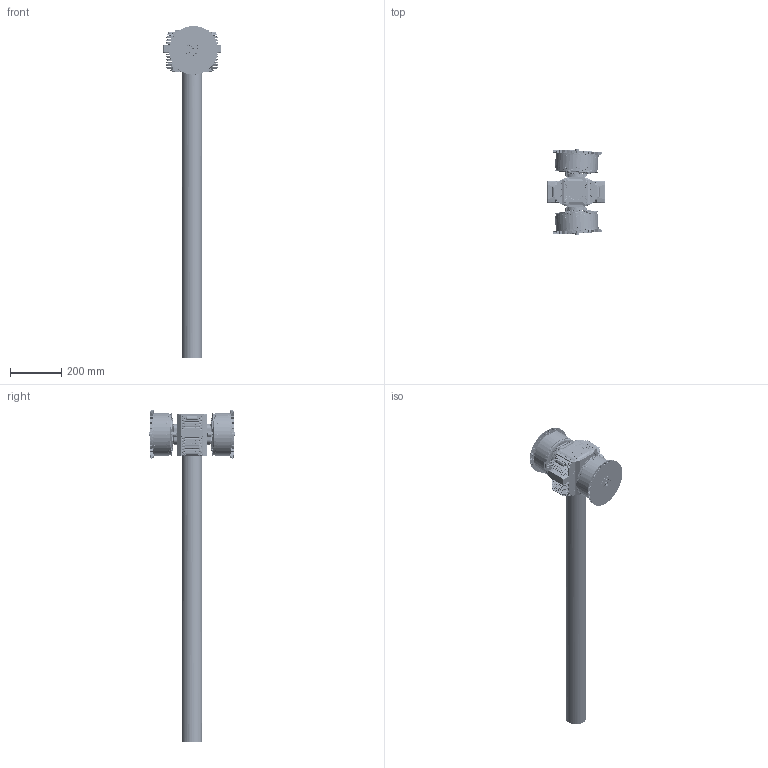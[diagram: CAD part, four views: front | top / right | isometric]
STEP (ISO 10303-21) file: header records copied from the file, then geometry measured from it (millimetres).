
FILE_DESCRIPTION (( 'STEP AP203' ), '1' );
FILE_NAME ('CM-H15 Plus-15635-24S-D80-3Dͼ.STEP', '2025-08-05T10:21:20', ( '' ), ( '' ), 'SwSTEP 2.0', 'SolidWorks 2021', '' );
FILE_SCHEMA (( 'CONFIG_CONTROL_DESIGN' ));
Length unit declared in the file: millimetre
Products named in the file (27): CM-H15 Plus-15635-24S-D80-3Dͼ; 打样图档-管夹座前盖-H15-黑色(默认); 工字硅胶塞; 171030441A0-HW5134-24S-臏醱褲-窪伎-A0(Default); 124440039B0-HW5110-呿蝶-腑欶; 104110640A0-螺钉-M6x16-内六角圆柱头-本色; 15635奻萇儂; 15635狟萇儂; M4-8; 124440043A0-HW5125-芵嫖え; 抯奪-D80(Default); 111420032A0-管夹转接头-3度-H15-15635(默认); ISO7380-2-2011_M3×6; 17507008900-XRotor梓ワ-HW-BQ5192-橙蚾-A0; 17599056900-諾啞梓ワ-HW-BQ0233-橙蚾-A0; H15萇覃郪璃(24S)-1; 111580072A0-奪標釱-H15-D80; DIN912-M4℅18; 104110638A2-螺丝-HM8×20-内六角圆柱头-本色; H15-15635僕粣萇儂軞蚾-25.06.11; 17507009300-XRotor梓ワ-HW-BQ5195-A0; 奪標釱ヶ裔泂祧; H15萇覃郪璃(24S); 171030442B0-HW5134-H15-臏菁褲-窪伎-B0; 104150049AA-防水透气阀-WVDM3×0.5; hexagon socket head cap screws gb(GB_FASTENER_SCREWS_HSHCS M2.5X8-S); 抯奪郪璃
Assembly tree (107 placements, depth 3):
  CM-H15 Plus-15635-24S-D80-3Dͼ
    H15萇覃郪璃(24S)
      171030441A0-HW5134-24S-臏醱褲-窪伎-A0(Default)
      171030442B0-HW5134-H15-臏菁褲-窪伎-B0
      hexagon socket head cap screws gb(GB_FASTENER_SCREWS_HSHCS M2.5X8-S)  x14
      104150049AA-防水透气阀-WVDM3×0.5
      124440039B0-HW5110-呿蝶-腑欶
      124440043A0-HW5125-芵嫖え
      17507009300-XRotor梓ワ-HW-BQ5195-A0
      17507008900-XRotor梓ワ-HW-BQ5192-橙蚾-A0
      17599056900-諾啞梓ワ-HW-BQ0233-橙蚾-A0
      DIN912-M4℅18  x4
      工字硅胶塞  x5
    抯奪郪璃
      抯奪-D80(Default)
    15635奻萇儂
      111420032A0-管夹转接头-3度-H15-15635(默认)
      H15-15635僕粣萇儂軞蚾-25.06.11
      104110640A0-螺钉-M6x16-内六角圆柱头-本色  x6
    15635狟萇儂
      111420032A0-管夹转接头-3度-H15-15635(默认)
      H15-15635僕粣萇儂軞蚾-25.06.11
      104110640A0-螺钉-M6x16-内六角圆柱头-本色  x6
    H15萇覃郪璃(24S)-1
      171030441A0-HW5134-24S-臏醱褲-窪伎-A0(Default)
      171030442B0-HW5134-H15-臏菁褲-窪伎-B0
      hexagon socket head cap screws gb(GB_FASTENER_SCREWS_HSHCS M2.5X8-S)  x14
      104150049AA-防水透气阀-WVDM3×0.5
      124440039B0-HW5110-呿蝶-腑欶
      124440043A0-HW5125-芵嫖え
      17507009300-XRotor梓ワ-HW-BQ5195-A0
      17507008900-XRotor梓ワ-HW-BQ5192-橙蚾-A0
      17599056900-諾啞梓ワ-HW-BQ0233-橙蚾-A0
      DIN912-M4℅18  x4
      工字硅胶塞  x5
    111580072A0-奪標釱-H15-D80
    DIN912-M4℅18  x4
    奪標釱ヶ裔泂祧
    104110638A2-螺丝-HM8×20-内六角圆柱头-本色  x8
    打样图档-管夹座前盖-H15-黑色(默认)
    M4-8  x4
    ISO7380-2-2011_M3×6  x4
Bounding box: 223.6 x 333.48 x 1296 mm (x, y, z)
Volume: 3431384.5 mm3; surface area: 1617472.1 mm2
Topology: 100 solids, 168 shells, 25656 faces, 65361 edges, 40051 vertices
Faces by surface type: plane 11229, cylinder 6922, cone 4467, bspline 2637, torus 361, sphere 40
Full cylindrical faces by diameter (mm): 0.4 x36, 1 x2, 1.25 x4, 1.5 x2, 1.6 x28, 1.8 x4, 2 x110, 2.05 x28, 2.4 x12, 2.5 x890, 2.7 x4, 2.8 x48, 3 x56, 3.2 x10, 3.3 x8, 3.5 x18, 4 x308, 4.2 x20, 4.5 x34, 5 x62, 5.5 x24, 5.8 x4, 6 x32, 6.4 x12, 6.5 x10, 6.8 x10, 7 x20, 7.5 x16, 7.8 x10, 8 x4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
Entity records: 494154 total; most frequent: CARTESIAN_POINT 268228, ORIENTED_EDGE 47303, DIRECTION 42705, EDGE_CURVE 23676, AXIS2_PLACEMENT_3D 15209, VERTEX_POINT 14901, VECTOR 12287, LINE 12287
